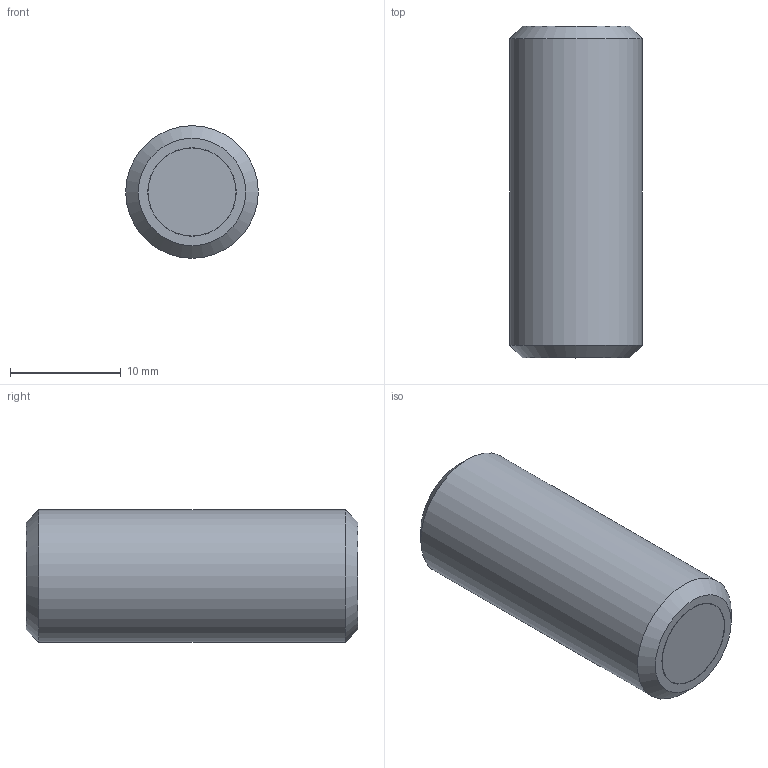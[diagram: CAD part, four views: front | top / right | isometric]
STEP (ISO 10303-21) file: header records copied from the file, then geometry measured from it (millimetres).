
FILE_DESCRIPTION(/* description */ ('STEP AP214'),/* implementation_level */ '2;1');
FILE_NAME(/* name */ 'Grub screw with retaining magnet GN 913.6-M12-30-ND',/* time_stamp */ '2023-10-03T11:27:19+02:00',/* author */ ('License CC BY-ND 4.0'),/* organization */ ('CADENAS'),/* preprocessor_version */ 'ST-DEVELOPER v19.3',/* originating_system */ 'PARTsolutions',/* authorisation */ ' ');
FILE_SCHEMA (('AUTOMOTIVE_DESIGN {1 0 10303 214 3 1 1}'));
Length unit declared in the file: millimetre
Products named in the file (1): Grub screw with retaining magnet GN 913.6-M12-30-ND
Bounding box: 12 x 30 x 12 mm (x, y, z)
Volume: 3151.3 mm3; surface area: 1427.4 mm2
Topology: 1 solids, 1 shells, 22 faces, 45 edges, 27 vertices
Faces by surface type: plane 16, cone 3, cylinder 3
Full cylindrical faces by diameter (mm): 7.96 x1, 8 x1, 12 x1
Entity records: 566 total; most frequent: DIRECTION 98, CARTESIAN_POINT 88, ORIENTED_EDGE 76, EDGE_CURVE 38, AXIS2_PLACEMENT_3D 37, FACE_BOUND 31, EDGE_LOOP 30, VERTEX_POINT 27
